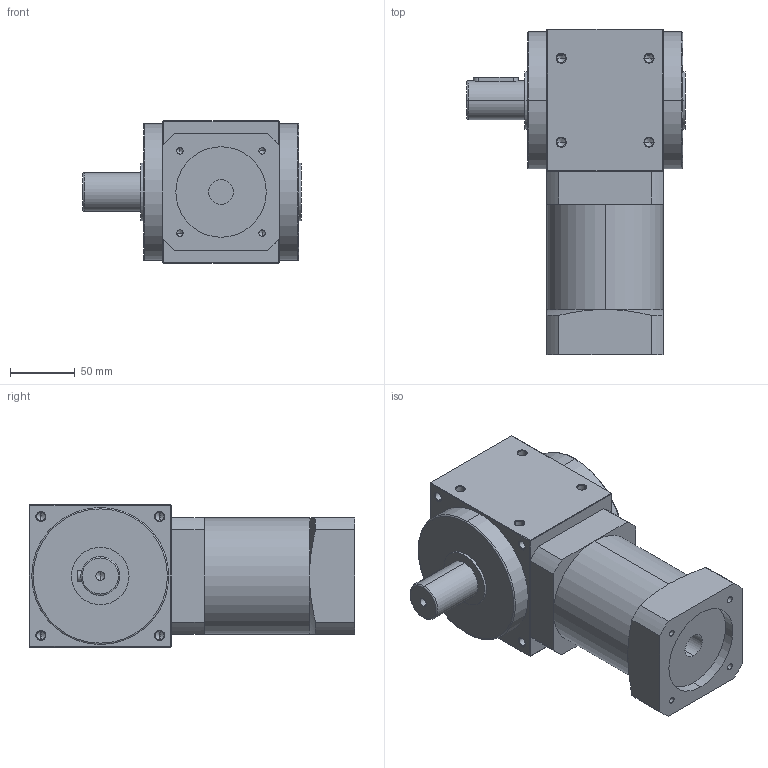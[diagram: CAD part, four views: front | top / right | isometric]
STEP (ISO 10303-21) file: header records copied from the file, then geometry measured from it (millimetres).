
FILE_DESCRIPTION (( 'STEP AP214' ), '1' );
FILE_NAME ('RXW110AS-L2-2P --19-70-90-M6.STEP', '2020-07-15T06:48:56', ( 'User' ), ( 'Far123' ), 'SwSTEP 2.0', 'SolidWorks 2015', '' );
FILE_SCHEMA (( 'AUTOMOTIVE_DESIGN' ));
Length unit declared in the file: millimetre
Products named in the file (1): RXW110AS-L2-2P --19-70-90-M6
Bounding box: 169 x 252 x 110 mm (x, y, z)
Volume: 2329908.2 mm3; surface area: 138268.8 mm2
Topology: 1 solids, 1 shells, 228 faces, 542 edges, 291 vertices
Faces by surface type: cone 94, cylinder 76, plane 52, torus 6
Entity records: 6910 total; most frequent: CARTESIAN_POINT 1228, DIRECTION 1158, ORIENTED_EDGE 984, EDGE_CURVE 492, AXIS2_PLACEMENT_3D 455, VERTEX_POINT 291, EDGE_LOOP 261, VECTOR 248
